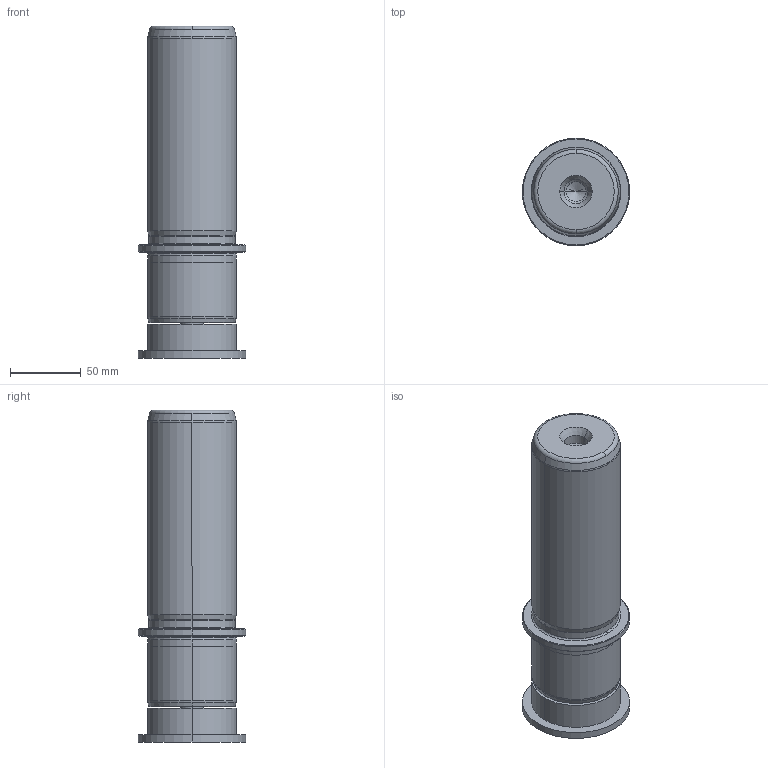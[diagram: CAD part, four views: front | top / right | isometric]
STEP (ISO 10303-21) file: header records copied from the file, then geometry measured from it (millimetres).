
FILE_DESCRIPTION((''),'2;1');
FILE_NAME('P22_063_160.stp','2009-02-06T15:50:38',(''),(''),'Mechanical Desktop 2009','Mechanical Desktop 2009',', , ');
FILE_SCHEMA(('CONFIG_CONTROL_DESIGN'));
Length unit declared in the file: millimetre
Products named in the file (2): Product; blmdl1
Assembly tree (1 placements, depth 2):
  Product
    blmdl1
Bounding box: 76 x 76 x 235 mm (x, y, z)
Volume: 726283.3 mm3; surface area: 73827.8 mm2
Topology: 3 solids, 3 shells, 99 faces, 237 edges, 149 vertices
Faces by surface type: cylinder 32, cone 28, plane 19, torus 10, bspline 10
Entity records: 3419 total; most frequent: CARTESIAN_POINT 923, DIRECTION 570, ORIENTED_EDGE 466, AXIS2_PLACEMENT_3D 246, EDGE_CURVE 233, CIRCLE 155, VERTEX_POINT 149, EDGE_LOOP 110
